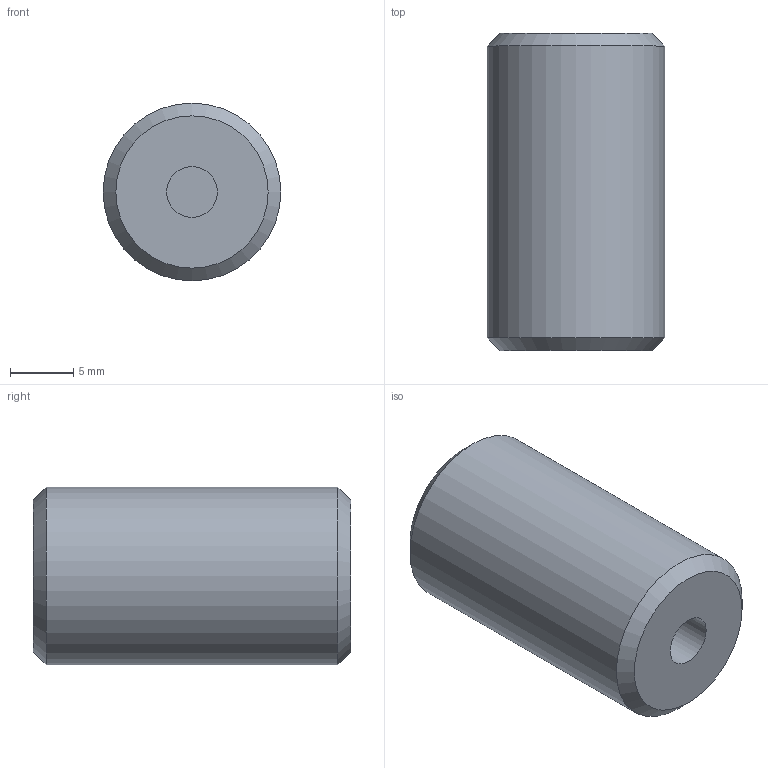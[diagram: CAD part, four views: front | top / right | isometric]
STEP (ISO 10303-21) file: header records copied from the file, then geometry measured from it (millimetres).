
FILE_DESCRIPTION(('STEP AP214'),'1');
FILE_NAME('S148-1425.stp','2026-04-22T06:05:42',(' '),(' '),'Spatial InterOp 3D',' ',' ');
FILE_SCHEMA(('AUTOMOTIVE_DESIGN { 1 0 10303 214 1 1 1 1 }'));
Length unit declared in the file: metre
Products named in the file (1): 2252
Bounding box: 14 x 25 x 14 mm (x, y, z)
Volume: 3680.9 mm3; surface area: 1479 mm2
Topology: 1 solids, 1 shells, 7 faces, 10 edges, 6 vertices
Faces by surface type: plane 3, cylinder 2, cone 2
Full cylindrical faces by diameter (mm): 4 x1, 14 x1
Entity records: 214 total; most frequent: DIRECTION 28, CARTESIAN_POINT 20, AXIS2_PLACEMENT_3D 14, EDGE_LOOP 12, ORIENTED_EDGE 12, FACE_OUTER_BOUND 9, STYLED_ITEM 8, PRESENTATION_STYLE_ASSIGNMENT 8
